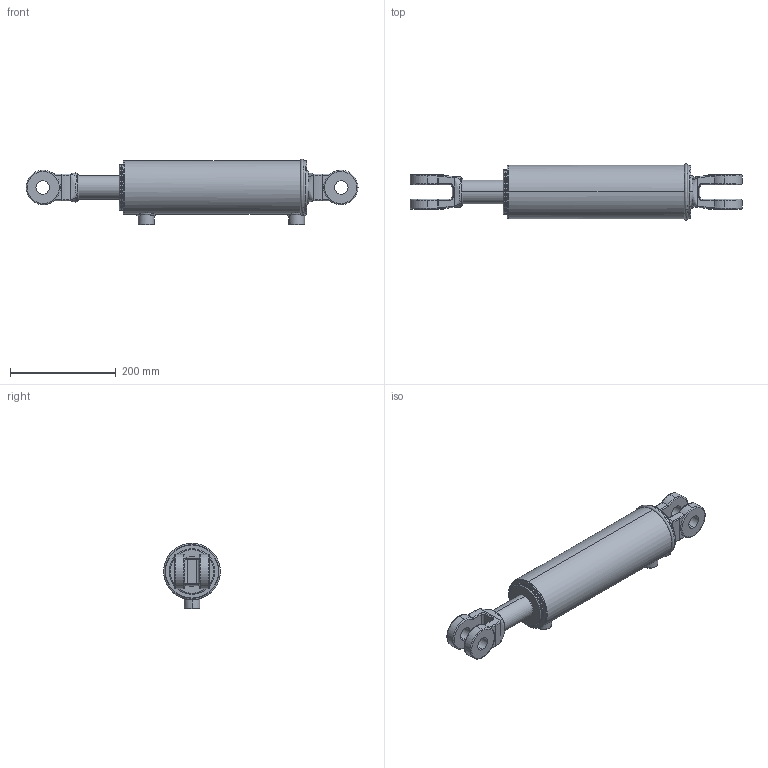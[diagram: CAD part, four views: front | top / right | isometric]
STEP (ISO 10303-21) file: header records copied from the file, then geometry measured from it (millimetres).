
FILE_DESCRIPTION (( 'STEP AP203' ), '1' );
FILE_NAME ('CL-CL350175x254 (10).STEP', '2014-11-22T16:26:30', ( '' ), ( '' ), 'SwSTEP 2.0', 'SolidWorks 2014', '' );
FILE_SCHEMA (( 'CONFIG_CONTROL_DESIGN' ));
Length unit declared in the file: millimetre
Products named in the file (4): CL-CL350175x254 (10); CL-CL300150x  body_3.5x10; 3 in ext circlip; SPARE 6_10x1.75
Assembly tree (3 placements, depth 2):
  CL-CL350175x254 (10)
    CL-CL300150x  body_3.5x10
    3 in ext circlip
    SPARE 6_10x1.75
Bounding box: 628.39 x 107.32 x 124.5 mm (x, y, z)
Volume: 3419644.4 mm3; surface area: 283616.4 mm2
Topology: 3 solids, 3 shells, 211 faces, 518 edges, 319 vertices
Faces by surface type: cylinder 91, bspline 59, plane 38, torus 15, cone 8
Entity records: 11321 total; most frequent: CARTESIAN_POINT 6234, ORIENTED_EDGE 1028, DIRECTION 941, EDGE_CURVE 514, AXIS2_PLACEMENT_3D 393, VERTEX_POINT 319, CIRCLE 235, EDGE_LOOP 233
